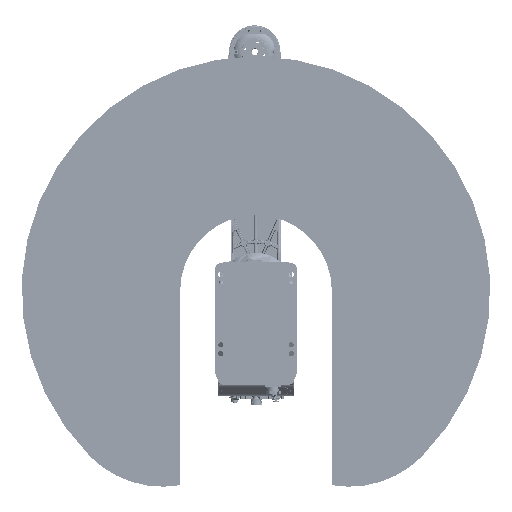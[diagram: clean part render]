
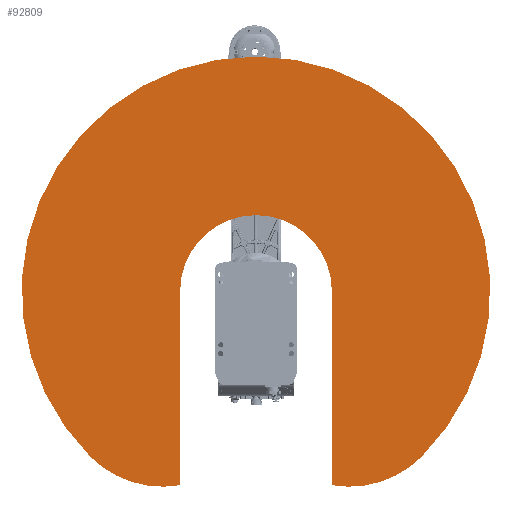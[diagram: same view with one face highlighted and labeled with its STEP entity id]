
A CAD part, front view. The second image highlights one B-rep face of the part: STEP entity #92809.
In plain terms, the highlighted planar face has unit normal (0, -1, 0) as drawn and (0, 0, 1) by its records, which use the part's own axes.
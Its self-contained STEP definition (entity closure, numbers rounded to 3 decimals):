
#1406 = EDGE_CURVE ( 'NONE', #150169, #81274, #175372, .T. ) ;
#8911 = DIRECTION ( 'NONE',  ( 0., 0., -1. ) ) ;
#9047 = CIRCLE ( 'NONE', #130499, 129.39 ) ;
#14922 = CARTESIAN_POINT ( 'NONE',  ( 331.559, -129.39, 170. ) ) ;
#16559 = EDGE_CURVE ( 'NONE', #44470, #187447, #53686, .T. ) ;
#18094 = CARTESIAN_POINT ( 'NONE',  ( 0., 0., 170. ) ) ;
#22109 = ORIENTED_EDGE ( 'NONE', *, *, #1406, .T. ) ;
#28113 = FACE_OUTER_BOUND ( 'NONE', #173497, .T. ) ;
#33586 = CARTESIAN_POINT ( 'NONE',  ( 159.099, -159.099, 170. ) ) ;
#33679 = CARTESIAN_POINT ( 'NONE',  ( 0., -129.39, 170. ) ) ;
#33785 = DIRECTION ( 'NONE',  ( 1., 0., 0. ) ) ;
#34126 = CARTESIAN_POINT ( 'NONE',  ( 310., 129.39, 170. ) ) ;
#35337 = CIRCLE ( 'NONE', #201628, 400. ) ;
#44470 = VERTEX_POINT ( 'NONE', #33679 ) ;
#46505 = CIRCLE ( 'NONE', #186376, 400. ) ;
#49296 = DIRECTION ( 'NONE',  ( 1., 0., 0. ) ) ;
#50229 = VERTEX_POINT ( 'NONE', #90048 ) ;
#50660 = CARTESIAN_POINT ( 'NONE',  ( 0., 0., 170. ) ) ;
#52666 = ORIENTED_EDGE ( 'NONE', *, *, #132297, .T. ) ;
#53686 = CIRCLE ( 'NONE', #102414, 129.39 ) ;
#62973 = EDGE_CURVE ( 'NONE', #81274, #50229, #141357, .T. ) ;
#63216 = DIRECTION ( 'NONE',  ( 0., 0., -1. ) ) ;
#63849 = CIRCLE ( 'NONE', #93341, 175. ) ;
#65502 = DIRECTION ( 'NONE',  ( 1., 0., 0. ) ) ;
#66306 = DIRECTION ( 'NONE',  ( 1., 0., 0. ) ) ;
#66995 = ORIENTED_EDGE ( 'NONE', *, *, #62973, .T. ) ;
#69528 = VERTEX_POINT ( 'NONE', #14922 ) ;
#73908 = ORIENTED_EDGE ( 'NONE', *, *, #184245, .T. ) ;
#77922 = DIRECTION ( 'NONE',  ( 0., 0., 1. ) ) ;
#78148 = CARTESIAN_POINT ( 'NONE',  ( 0., 0., 170. ) ) ;
#80684 = VECTOR ( 'NONE', #114464, 1000. ) ;
#81274 = VERTEX_POINT ( 'NONE', #110396 ) ;
#89161 = VERTEX_POINT ( 'NONE', #115488 ) ;
#90048 = CARTESIAN_POINT ( 'NONE',  ( 282.843, 282.843, 170. ) ) ;
#92010 = VECTOR ( 'NONE', #65502, 1000. ) ;
#92809 = ADVANCED_FACE ( 'NONE', ( #28113 ), #102524, .F. ) ;
#93341 = AXIS2_PLACEMENT_3D ( 'NONE', #33586, #143059, #49296 ) ;
#93799 = DIRECTION ( 'NONE',  ( 1., 0., 0. ) ) ;
#98696 = CARTESIAN_POINT ( 'NONE',  ( 310., -129.39, 170. ) ) ;
#102414 = AXIS2_PLACEMENT_3D ( 'NONE', #50660, #160141, #66306 ) ;
#102524 = PLANE ( 'NONE',  #193751 ) ;
#103836 = CARTESIAN_POINT ( 'NONE',  ( -129.39, 0., 170. ) ) ;
#110396 = CARTESIAN_POINT ( 'NONE',  ( 331.559, 129.39, 170. ) ) ;
#114464 = DIRECTION ( 'NONE',  ( -1., 0., 0. ) ) ;
#115488 = CARTESIAN_POINT ( 'NONE',  ( 282.843, -282.843, 170. ) ) ;
#118337 = DIRECTION ( 'NONE',  ( -1., 0., 0. ) ) ;
#127475 = DIRECTION ( 'NONE',  ( 0., 0., 1. ) ) ;
#129722 = EDGE_CURVE ( 'NONE', #187447, #150169, #9047, .T. ) ;
#130499 = AXIS2_PLACEMENT_3D ( 'NONE', #157013, #63216, #172752 ) ;
#132297 = EDGE_CURVE ( 'NONE', #50229, #153713, #35337, .T. ) ;
#136912 = EDGE_CURVE ( 'NONE', #69528, #44470, #168869, .T. ) ;
#141357 = CIRCLE ( 'NONE', #150442, 175. ) ;
#143059 = DIRECTION ( 'NONE',  ( 0., 0., 1. ) ) ;
#149176 = CARTESIAN_POINT ( 'NONE',  ( 159.099, 159.099, 170. ) ) ;
#149254 = ORIENTED_EDGE ( 'NONE', *, *, #136912, .T. ) ;
#150169 = VERTEX_POINT ( 'NONE', #163181 ) ;
#150442 = AXIS2_PLACEMENT_3D ( 'NONE', #171687, #77922, #187476 ) ;
#152417 = ORIENTED_EDGE ( 'NONE', *, *, #159679, .T. ) ;
#153713 = VERTEX_POINT ( 'NONE', #189198 ) ;
#157013 = CARTESIAN_POINT ( 'NONE',  ( 0., 0., 170. ) ) ;
#159679 = EDGE_CURVE ( 'NONE', #89161, #69528, #63849, .T. ) ;
#160141 = DIRECTION ( 'NONE',  ( 0., 0., -1. ) ) ;
#163181 = CARTESIAN_POINT ( 'NONE',  ( 0., 129.39, 170. ) ) ;
#168869 = LINE ( 'NONE', #98696, #80684 ) ;
#171687 = CARTESIAN_POINT ( 'NONE',  ( 159.099, 159.099, 170. ) ) ;
#172752 = DIRECTION ( 'NONE',  ( 1., 0., 0. ) ) ;
#173496 = ORIENTED_EDGE ( 'NONE', *, *, #129722, .T. ) ;
#173497 = EDGE_LOOP ( 'NONE', ( #66995, #52666, #73908, #152417, #149254, #195815, #173496, #22109 ) ) ;
#175372 = LINE ( 'NONE', #34126, #92010 ) ;
#184245 = EDGE_CURVE ( 'NONE', #153713, #89161, #46505, .T. ) ;
#186376 = AXIS2_PLACEMENT_3D ( 'NONE', #18094, #127475, #33785 ) ;
#187447 = VERTEX_POINT ( 'NONE', #103836 ) ;
#187476 = DIRECTION ( 'NONE',  ( -1., 0., 0. ) ) ;
#187705 = DIRECTION ( 'NONE',  ( 0., 0., 1. ) ) ;
#189198 = CARTESIAN_POINT ( 'NONE',  ( -400., 0., 170. ) ) ;
#193751 = AXIS2_PLACEMENT_3D ( 'NONE', #149176, #8911, #118337 ) ;
#195815 = ORIENTED_EDGE ( 'NONE', *, *, #16559, .T. ) ;
#201628 = AXIS2_PLACEMENT_3D ( 'NONE', #78148, #187705, #93799 ) ;
